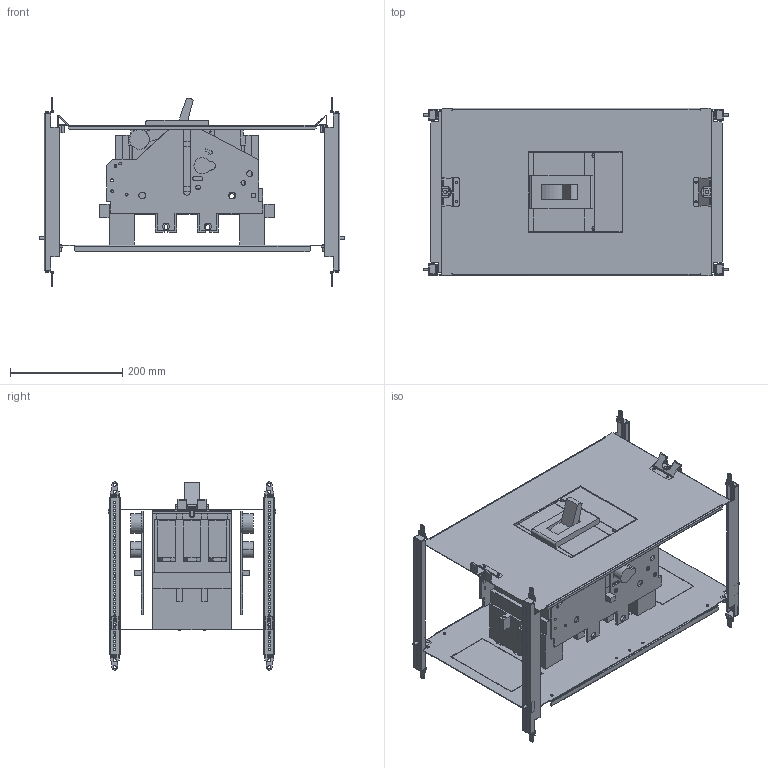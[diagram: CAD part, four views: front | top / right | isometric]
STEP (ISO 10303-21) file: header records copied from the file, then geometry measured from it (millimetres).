
FILE_DESCRIPTION(('CAx-IF Rec.Pracs.---Model Styling and Organization---1.2---2011-12-15','CAx-IF Rec.Pracs.---Geometric and Assembly Validation Properties---4.1---2014-06-16','CAx-IF Rec.Pracs.---PMI Polyline Presentation---2.0---2013-05-24'),'2;1');
FILE_NAME('R5PKIB7H61516.stp','2021-07-29T03:04:53+03:00',(''),(''),'STEP Interface 4.4 by CT CoreTechnologie','3D_Evolution4.4 by CT CoreTechnologie','');
FILE_SCHEMA(('AUTOMOTIVE_DESIGN { 1 0 10303 214 1 1 1 1 }'));
Length unit declared in the file: millimetre
Products named in the file (1): R5PKIB7H61516
Bounding box: 542 x 298 x 335 mm (x, y, z)
Surface area: 1346728.8 mm2 (no closed solid volume)
Topology: 0 solids, 64 shells, 1891 faces, 5492 edges, 3733 vertices
Faces by surface type: plane 1058, cylinder 762, bspline 71
Entity records: 64409 total; most frequent: CARTESIAN_POINT 12064, ORIENTED_EDGE 10926, DIRECTION 10740, EDGE_CURVE 5472, VECTOR 3826, LINE 3826, VERTEX_POINT 3735, AXIS2_PLACEMENT_3D 3457
